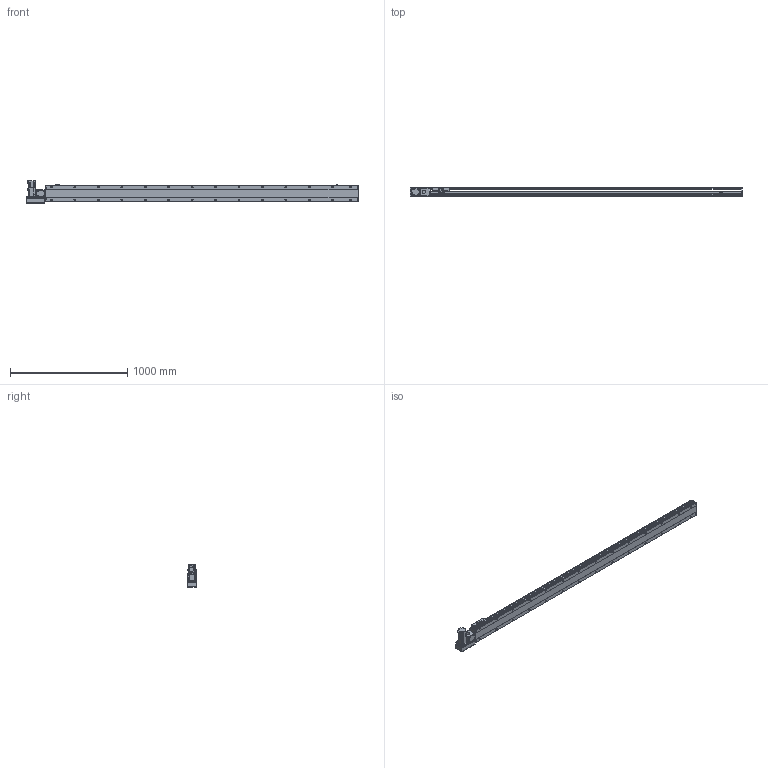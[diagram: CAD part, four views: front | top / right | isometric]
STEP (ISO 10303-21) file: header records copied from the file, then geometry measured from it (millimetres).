
FILE_DESCRIPTION(/* description */ ('STEP AP214'),/* implementation_level */ '2;1');
FILE_NAME(/* name */ 'PBS140-P40-S2400-L-T40-C1-N(0)',/* time_stamp */ '2022-06-06T03:07:03+02:00',/* author */ ('License CC BY-ND 4.0'),/* organization */ ('CADENAS'),/* preprocessor_version */ 'ST-DEVELOPER v18.102',/* originating_system */ 'PARTsolutions',/* authorisation */ ' ');
FILE_SCHEMA (('AUTOMOTIVE_DESIGN {1 0 10303 214 3 1 1}'));
Length unit declared in the file: millimetre
Products named in the file (7): PBS140-P40-S2400-L-T40-C1-N(0); PBS140_sensor; PBS140_plant; PBS140_sliser; T40-p1; PBS140T-L_motors; PBS140-S2400()_body
Assembly tree (8 placements, depth 2):
  PBS140-P40-S2400-L-T40-C1-N(0)
    PBS140_sensor  x3
    PBS140_plant
    PBS140_sliser
    T40-p1
    PBS140T-L_motors
    PBS140-S2400()_body
Bounding box: 2833 x 80.5 x 189.7 mm (x, y, z)
Volume: 12381726.7 mm3; surface area: 2110518 mm2
Topology: 8 solids, 8 shells, 1171 faces, 3076 edges, 2009 vertices
Faces by surface type: plane 728, cylinder 379, cone 54, sphere 8, torus 2
Full cylindrical faces by diameter (mm): 3.242 x4, 4 x2, 4.134 x4, 4.4 x8, 4.5 x2, 4.8 x4, 4.917 x36, 5.5 x7, 6 x2, 7 x30, 7.5 x8, 8 x12, 8.5 x4, 10.5 x28, 14 x1, 30 x2, 50 x2
Entity records: 33393 total; most frequent: CARTESIAN_POINT 6337, DIRECTION 5617, ORIENTED_EDGE 5272, EDGE_CURVE 2636, AXIS2_PLACEMENT_3D 1987, VERTEX_POINT 1845, LINE 1643, VECTOR 1643
